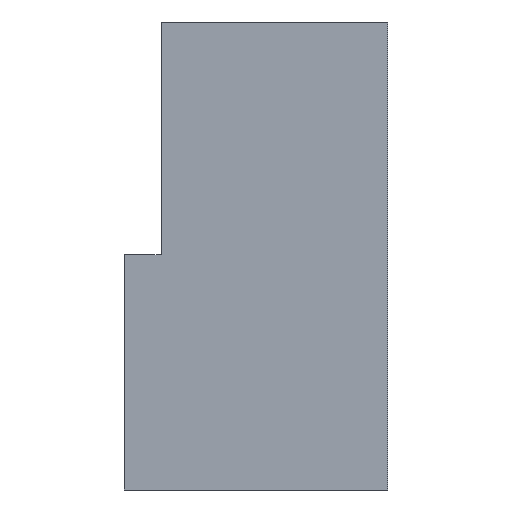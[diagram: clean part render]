
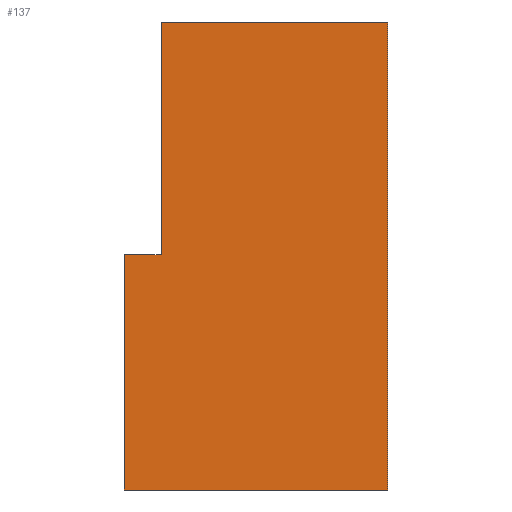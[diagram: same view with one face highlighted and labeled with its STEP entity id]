
A CAD part, front view. The second image highlights one B-rep face of the part: STEP entity #137.
In plain terms, the highlighted planar face has unit normal (0, -1, 0).
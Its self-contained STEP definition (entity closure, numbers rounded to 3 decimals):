
#21 = EDGE_CURVE('',#22,#24,#26,.T.);
#22 = VERTEX_POINT('',#23);
#23 = CARTESIAN_POINT('',(32.1,16.,-5.45));
#24 = VERTEX_POINT('',#25);
#25 = CARTESIAN_POINT('',(32.1,16.,0.));
#26 = SURFACE_CURVE('',#27,(#31,#43),.PCURVE_S1.);
#27 = LINE('',#28,#29);
#28 = CARTESIAN_POINT('',(32.1,16.,-5.45));
#29 = VECTOR('',#30,1.);
#30 = DIRECTION('',(0.,0.,1.));
#31 = PCURVE('',#32,#37);
#32 = PLANE('',#33);
#33 = AXIS2_PLACEMENT_3D('',#34,#35,#36);
#34 = CARTESIAN_POINT('',(32.1,16.,-5.45));
#35 = DIRECTION('',(1.,0.,0.));
#36 = DIRECTION('',(0.,0.,1.));
#37 = DEFINITIONAL_REPRESENTATION('',(#38),#42);
#38 = LINE('',#39,#40);
#39 = CARTESIAN_POINT('',(0.,0.));
#40 = VECTOR('',#41,1.);
#41 = DIRECTION('',(1.,0.));
#42 = ( GEOMETRIC_REPRESENTATION_CONTEXT(2) 
PARAMETRIC_REPRESENTATION_CONTEXT() REPRESENTATION_CONTEXT('2D SPACE',''
  ) );
#43 = PCURVE('',#44,#49);
#44 = PLANE('',#45);
#45 = AXIS2_PLACEMENT_3D('',#46,#47,#48);
#46 = CARTESIAN_POINT('',(32.1,16.,-5.45));
#47 = DIRECTION('',(0.,1.,0.));
#48 = DIRECTION('',(0.,-0.,1.));
#49 = DEFINITIONAL_REPRESENTATION('',(#50),#54);
#50 = LINE('',#51,#52);
#51 = CARTESIAN_POINT('',(0.,0.));
#52 = VECTOR('',#53,1.);
#53 = DIRECTION('',(1.,0.));
#54 = ( GEOMETRIC_REPRESENTATION_CONTEXT(2) 
PARAMETRIC_REPRESENTATION_CONTEXT() REPRESENTATION_CONTEXT('2D SPACE',''
  ) );
#72 = PLANE('',#73);
#73 = AXIS2_PLACEMENT_3D('',#74,#75,#76);
#74 = CARTESIAN_POINT('',(32.1,16.,-5.45));
#75 = DIRECTION('',(0.,0.,1.));
#76 = DIRECTION('',(1.,0.,-0.));
#126 = PLANE('',#127);
#127 = AXIS2_PLACEMENT_3D('',#128,#129,#130);
#128 = CARTESIAN_POINT('',(31.1,15.,0.));
#129 = DIRECTION('',(0.,0.,1.));
#130 = DIRECTION('',(1.,0.,-0.));
#137 = ADVANCED_FACE('',(#138),#44,.F.);
#138 = FACE_BOUND('',#139,.F.);
#139 = EDGE_LOOP('',(#140,#169,#190,#191,#214,#242));
#140 = ORIENTED_EDGE('',*,*,#141,.T.);
#141 = EDGE_CURVE('',#142,#144,#146,.T.);
#142 = VERTEX_POINT('',#143);
#143 = CARTESIAN_POINT('',(38.2,16.,5.4));
#144 = VERTEX_POINT('',#145);
#145 = CARTESIAN_POINT('',(38.2,16.,-5.45));
#146 = SURFACE_CURVE('',#147,(#151,#157),.PCURVE_S1.);
#147 = LINE('',#148,#149);
#148 = CARTESIAN_POINT('',(38.2,16.,-6.725));
#149 = VECTOR('',#150,1.);
#150 = DIRECTION('',(0.,0.,-1.));
#151 = PCURVE('',#44,#152);
#152 = DEFINITIONAL_REPRESENTATION('',(#153),#156);
#153 = B_SPLINE_CURVE_WITH_KNOTS('',1,(#154,#155),.UNSPECIFIED.,.F.,.F.,
  (2,2),(-12.125,-1.275),.PIECEWISE_BEZIER_KNOTS.);
#154 = CARTESIAN_POINT('',(10.85,6.1));
#155 = CARTESIAN_POINT('',(0.,6.1));
#156 = ( GEOMETRIC_REPRESENTATION_CONTEXT(2) 
PARAMETRIC_REPRESENTATION_CONTEXT() REPRESENTATION_CONTEXT('2D SPACE',''
  ) );
#157 = PCURVE('',#158,#163);
#158 = PLANE('',#159);
#159 = AXIS2_PLACEMENT_3D('',#160,#161,#162);
#160 = CARTESIAN_POINT('',(38.2,4.,-8.));
#161 = DIRECTION('',(1.,0.,0.));
#162 = DIRECTION('',(0.,0.,1.));
#163 = DEFINITIONAL_REPRESENTATION('',(#164),#168);
#164 = LINE('',#165,#166);
#165 = CARTESIAN_POINT('',(1.275,-12.));
#166 = VECTOR('',#167,1.);
#167 = DIRECTION('',(-1.,0.));
#168 = ( GEOMETRIC_REPRESENTATION_CONTEXT(2) 
PARAMETRIC_REPRESENTATION_CONTEXT() REPRESENTATION_CONTEXT('2D SPACE',''
  ) );
#169 = ORIENTED_EDGE('',*,*,#170,.F.);
#170 = EDGE_CURVE('',#22,#144,#171,.T.);
#171 = SURFACE_CURVE('',#172,(#176,#183),.PCURVE_S1.);
#172 = LINE('',#173,#174);
#173 = CARTESIAN_POINT('',(32.1,16.,-5.45));
#174 = VECTOR('',#175,1.);
#175 = DIRECTION('',(1.,0.,0.));
#176 = PCURVE('',#44,#177);
#177 = DEFINITIONAL_REPRESENTATION('',(#178),#182);
#178 = LINE('',#179,#180);
#179 = CARTESIAN_POINT('',(0.,0.));
#180 = VECTOR('',#181,1.);
#181 = DIRECTION('',(0.,1.));
#182 = ( GEOMETRIC_REPRESENTATION_CONTEXT(2) 
PARAMETRIC_REPRESENTATION_CONTEXT() REPRESENTATION_CONTEXT('2D SPACE',''
  ) );
#183 = PCURVE('',#72,#184);
#184 = DEFINITIONAL_REPRESENTATION('',(#185),#189);
#185 = LINE('',#186,#187);
#186 = CARTESIAN_POINT('',(0.,0.));
#187 = VECTOR('',#188,1.);
#188 = DIRECTION('',(1.,0.));
#189 = ( GEOMETRIC_REPRESENTATION_CONTEXT(2) 
PARAMETRIC_REPRESENTATION_CONTEXT() REPRESENTATION_CONTEXT('2D SPACE',''
  ) );
#190 = ORIENTED_EDGE('',*,*,#21,.T.);
#191 = ORIENTED_EDGE('',*,*,#192,.T.);
#192 = EDGE_CURVE('',#24,#193,#195,.T.);
#193 = VERTEX_POINT('',#194);
#194 = CARTESIAN_POINT('',(32.95,16.,0.));
#195 = SURFACE_CURVE('',#196,(#200,#207),.PCURVE_S1.);
#196 = LINE('',#197,#198);
#197 = CARTESIAN_POINT('',(31.6,16.,0.));
#198 = VECTOR('',#199,1.);
#199 = DIRECTION('',(1.,0.,0.));
#200 = PCURVE('',#44,#201);
#201 = DEFINITIONAL_REPRESENTATION('',(#202),#206);
#202 = LINE('',#203,#204);
#203 = CARTESIAN_POINT('',(5.45,-0.5));
#204 = VECTOR('',#205,1.);
#205 = DIRECTION('',(0.,1.));
#206 = ( GEOMETRIC_REPRESENTATION_CONTEXT(2) 
PARAMETRIC_REPRESENTATION_CONTEXT() REPRESENTATION_CONTEXT('2D SPACE',''
  ) );
#207 = PCURVE('',#126,#208);
#208 = DEFINITIONAL_REPRESENTATION('',(#209),#213);
#209 = LINE('',#210,#211);
#210 = CARTESIAN_POINT('',(0.5,1.));
#211 = VECTOR('',#212,1.);
#212 = DIRECTION('',(1.,0.));
#213 = ( GEOMETRIC_REPRESENTATION_CONTEXT(2) 
PARAMETRIC_REPRESENTATION_CONTEXT() REPRESENTATION_CONTEXT('2D SPACE',''
  ) );
#214 = ORIENTED_EDGE('',*,*,#215,.F.);
#215 = EDGE_CURVE('',#216,#193,#218,.T.);
#216 = VERTEX_POINT('',#217);
#217 = CARTESIAN_POINT('',(32.95,16.,5.4));
#218 = SURFACE_CURVE('',#219,(#223,#230),.PCURVE_S1.);
#219 = LINE('',#220,#221);
#220 = CARTESIAN_POINT('',(32.95,16.,-2.725));
#221 = VECTOR('',#222,1.);
#222 = DIRECTION('',(0.,0.,-1.));
#223 = PCURVE('',#44,#224);
#224 = DEFINITIONAL_REPRESENTATION('',(#225),#229);
#225 = LINE('',#226,#227);
#226 = CARTESIAN_POINT('',(2.725,0.85));
#227 = VECTOR('',#228,1.);
#228 = DIRECTION('',(-1.,0.));
#229 = ( GEOMETRIC_REPRESENTATION_CONTEXT(2) 
PARAMETRIC_REPRESENTATION_CONTEXT() REPRESENTATION_CONTEXT('2D SPACE',''
  ) );
#230 = PCURVE('',#231,#236);
#231 = PLANE('',#232);
#232 = AXIS2_PLACEMENT_3D('',#233,#234,#235);
#233 = CARTESIAN_POINT('',(32.95,15.,0.));
#234 = DIRECTION('',(1.,0.,0.));
#235 = DIRECTION('',(0.,0.,1.));
#236 = DEFINITIONAL_REPRESENTATION('',(#237),#241);
#237 = LINE('',#238,#239);
#238 = CARTESIAN_POINT('',(-2.725,-1.));
#239 = VECTOR('',#240,1.);
#240 = DIRECTION('',(-1.,0.));
#241 = ( GEOMETRIC_REPRESENTATION_CONTEXT(2) 
PARAMETRIC_REPRESENTATION_CONTEXT() REPRESENTATION_CONTEXT('2D SPACE',''
  ) );
#242 = ORIENTED_EDGE('',*,*,#243,.T.);
#243 = EDGE_CURVE('',#216,#142,#244,.T.);
#244 = SURFACE_CURVE('',#245,(#249,#256),.PCURVE_S1.);
#245 = LINE('',#246,#247);
#246 = CARTESIAN_POINT('',(32.1,16.,5.4));
#247 = VECTOR('',#248,1.);
#248 = DIRECTION('',(1.,0.,0.));
#249 = PCURVE('',#44,#250);
#250 = DEFINITIONAL_REPRESENTATION('',(#251),#255);
#251 = LINE('',#252,#253);
#252 = CARTESIAN_POINT('',(10.85,0.));
#253 = VECTOR('',#254,1.);
#254 = DIRECTION('',(0.,1.));
#255 = ( GEOMETRIC_REPRESENTATION_CONTEXT(2) 
PARAMETRIC_REPRESENTATION_CONTEXT() REPRESENTATION_CONTEXT('2D SPACE',''
  ) );
#256 = PCURVE('',#257,#262);
#257 = PLANE('',#258);
#258 = AXIS2_PLACEMENT_3D('',#259,#260,#261);
#259 = CARTESIAN_POINT('',(32.1,16.,5.4));
#260 = DIRECTION('',(0.,0.,1.));
#261 = DIRECTION('',(1.,0.,-0.));
#262 = DEFINITIONAL_REPRESENTATION('',(#263),#267);
#263 = LINE('',#264,#265);
#264 = CARTESIAN_POINT('',(0.,0.));
#265 = VECTOR('',#266,1.);
#266 = DIRECTION('',(1.,0.));
#267 = ( GEOMETRIC_REPRESENTATION_CONTEXT(2) 
PARAMETRIC_REPRESENTATION_CONTEXT() REPRESENTATION_CONTEXT('2D SPACE',''
  ) );
